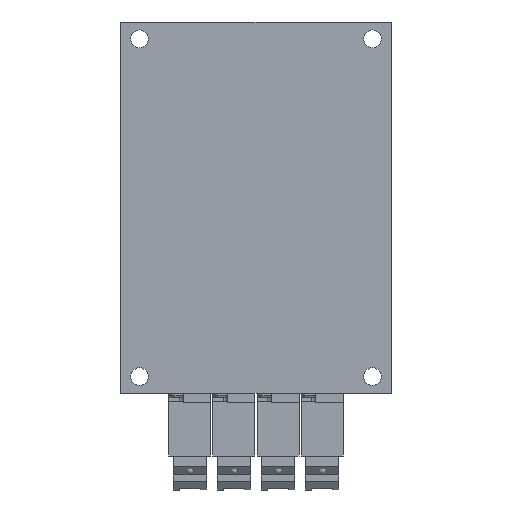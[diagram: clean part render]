
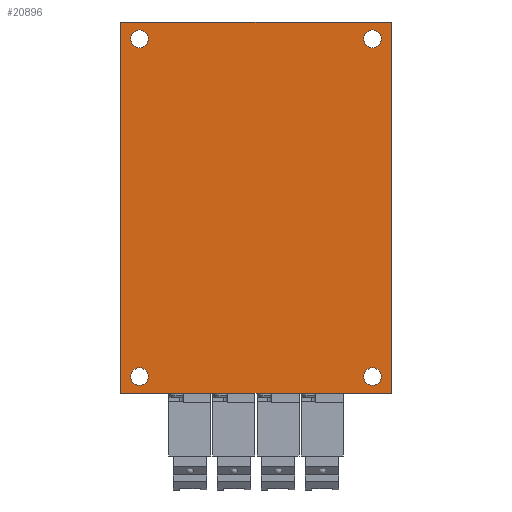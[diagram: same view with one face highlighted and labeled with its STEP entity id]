
A CAD part, front view. The second image highlights one B-rep face of the part: STEP entity #20896.
In plain terms, the highlighted planar face has unit normal (0, -1, 0).
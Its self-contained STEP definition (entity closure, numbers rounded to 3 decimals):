
#229 = DIRECTION ( 'NONE',  ( 0., 0., -1. ) ) ;
#1925 = LINE ( 'NONE', #21956, #12568 ) ;
#2523 = EDGE_CURVE ( 'NONE', #6799, #6799, #6959, .T. ) ;
#2814 = VERTEX_POINT ( 'NONE', #23988 ) ;
#3107 = CIRCLE ( 'NONE', #3927, 2.1 ) ;
#3552 = CARTESIAN_POINT ( 'NONE',  ( -32.25, 0., 44.25 ) ) ;
#3862 = EDGE_CURVE ( 'NONE', #4803, #4803, #25206, .T. ) ;
#3927 = AXIS2_PLACEMENT_3D ( 'NONE', #5730, #20592, #7880 ) ;
#4213 = VECTOR ( 'NONE', #5689, 1000. ) ;
#4259 = VERTEX_POINT ( 'NONE', #27017 ) ;
#4585 = ORIENTED_EDGE ( 'NONE', *, *, #18537, .F. ) ;
#4657 = CARTESIAN_POINT ( 'NONE',  ( 0., 0., 0. ) ) ;
#4761 = EDGE_LOOP ( 'NONE', ( #9656 ) ) ;
#4803 = VERTEX_POINT ( 'NONE', #25071 ) ;
#5066 = VECTOR ( 'NONE', #229, 1000. ) ;
#5689 = DIRECTION ( 'NONE',  ( -1., 0., 0. ) ) ;
#5730 = CARTESIAN_POINT ( 'NONE',  ( 27.75, 0., 40.25 ) ) ;
#6799 = VERTEX_POINT ( 'NONE', #22836 ) ;
#6899 = CARTESIAN_POINT ( 'NONE',  ( 27.75, 0., 42.35 ) ) ;
#6959 = CIRCLE ( 'NONE', #14338, 2.1 ) ;
#7494 = ORIENTED_EDGE ( 'NONE', *, *, #3862, .T. ) ;
#7880 = DIRECTION ( 'NONE',  ( 0., 0., 1. ) ) ;
#8095 = AXIS2_PLACEMENT_3D ( 'NONE', #23278, #10542, #25422 ) ;
#8664 = EDGE_LOOP ( 'NONE', ( #23421, #16320, #13741, #4585 ) ) ;
#8788 = CARTESIAN_POINT ( 'NONE',  ( -27.75, 0., 40.25 ) ) ;
#8941 = DIRECTION ( 'NONE',  ( 0., 0., -1. ) ) ;
#8994 = AXIS2_PLACEMENT_3D ( 'NONE', #4657, #21654, #8941 ) ;
#9656 = ORIENTED_EDGE ( 'NONE', *, *, #2523, .T. ) ;
#9879 = LINE ( 'NONE', #20554, #4213 ) ;
#9978 = DIRECTION ( 'NONE',  ( 0., 1., 0. ) ) ;
#10542 = DIRECTION ( 'NONE',  ( 0., 1., 0. ) ) ;
#10939 = DIRECTION ( 'NONE',  ( 0., 0., 1. ) ) ;
#10970 = EDGE_CURVE ( 'NONE', #15415, #15415, #3107, .T. ) ;
#12568 = VECTOR ( 'NONE', #24118, 1000. ) ;
#13312 = VERTEX_POINT ( 'NONE', #24585 ) ;
#13741 = ORIENTED_EDGE ( 'NONE', *, *, #25802, .F. ) ;
#14274 = CARTESIAN_POINT ( 'NONE',  ( 32.25, 0., -44.25 ) ) ;
#14338 = AXIS2_PLACEMENT_3D ( 'NONE', #22713, #9978, #24865 ) ;
#14345 = LINE ( 'NONE', #3552, #27016 ) ;
#14901 = AXIS2_PLACEMENT_3D ( 'NONE', #8788, #23671, #10939 ) ;
#15038 = FACE_OUTER_BOUND ( 'NONE', #8664, .T. ) ;
#15415 = VERTEX_POINT ( 'NONE', #6899 ) ;
#15449 = EDGE_LOOP ( 'NONE', ( #17582 ) ) ;
#15692 = FACE_BOUND ( 'NONE', #24960, .T. ) ;
#16043 = CIRCLE ( 'NONE', #8095, 2.1 ) ;
#16181 = CARTESIAN_POINT ( 'NONE',  ( 27.75, 0., -38.15 ) ) ;
#16320 = ORIENTED_EDGE ( 'NONE', *, *, #24099, .F. ) ;
#16373 = LINE ( 'NONE', #21466, #5066 ) ;
#16383 = EDGE_LOOP ( 'NONE', ( #16909 ) ) ;
#16909 = ORIENTED_EDGE ( 'NONE', *, *, #20725, .T. ) ;
#17045 = VERTEX_POINT ( 'NONE', #16181 ) ;
#17582 = ORIENTED_EDGE ( 'NONE', *, *, #10970, .T. ) ;
#18409 = DIRECTION ( 'NONE',  ( 1., 0., 0. ) ) ;
#18537 = EDGE_CURVE ( 'NONE', #19986, #4259, #9879, .T. ) ;
#19504 = PLANE ( 'NONE',  #8994 ) ;
#19986 = VERTEX_POINT ( 'NONE', #14274 ) ;
#20554 = CARTESIAN_POINT ( 'NONE',  ( -32.25, 0., -44.25 ) ) ;
#20592 = DIRECTION ( 'NONE',  ( 0., 1., 0. ) ) ;
#20700 = FACE_BOUND ( 'NONE', #15449, .T. ) ;
#20725 = EDGE_CURVE ( 'NONE', #17045, #17045, #16043, .T. ) ;
#20852 = EDGE_CURVE ( 'NONE', #2814, #19986, #16373, .T. ) ;
#20896 = ADVANCED_FACE ( 'NONE', ( #15692, #26381, #21348, #20700, #15038 ), #19504, .T. ) ;
#21348 = FACE_BOUND ( 'NONE', #16383, .T. ) ;
#21466 = CARTESIAN_POINT ( 'NONE',  ( 32.25, 0., 44.25 ) ) ;
#21654 = DIRECTION ( 'NONE',  ( 0., -1., 0. ) ) ;
#21956 = CARTESIAN_POINT ( 'NONE',  ( -32.25, 0., 44.25 ) ) ;
#22713 = CARTESIAN_POINT ( 'NONE',  ( -27.75, 0., -40.25 ) ) ;
#22836 = CARTESIAN_POINT ( 'NONE',  ( -27.75, 0., -38.15 ) ) ;
#23278 = CARTESIAN_POINT ( 'NONE',  ( 27.75, 0., -40.25 ) ) ;
#23421 = ORIENTED_EDGE ( 'NONE', *, *, #20852, .F. ) ;
#23671 = DIRECTION ( 'NONE',  ( 0., 1., 0. ) ) ;
#23988 = CARTESIAN_POINT ( 'NONE',  ( 32.25, 0., 44.25 ) ) ;
#24099 = EDGE_CURVE ( 'NONE', #13312, #2814, #14345, .T. ) ;
#24118 = DIRECTION ( 'NONE',  ( 0., 0., 1. ) ) ;
#24585 = CARTESIAN_POINT ( 'NONE',  ( -32.25, 0., 44.25 ) ) ;
#24865 = DIRECTION ( 'NONE',  ( 0., 0., 1. ) ) ;
#24960 = EDGE_LOOP ( 'NONE', ( #7494 ) ) ;
#25071 = CARTESIAN_POINT ( 'NONE',  ( -27.75, 0., 42.35 ) ) ;
#25206 = CIRCLE ( 'NONE', #14901, 2.1 ) ;
#25422 = DIRECTION ( 'NONE',  ( 0., 0., 1. ) ) ;
#25802 = EDGE_CURVE ( 'NONE', #4259, #13312, #1925, .T. ) ;
#26381 = FACE_BOUND ( 'NONE', #4761, .T. ) ;
#27016 = VECTOR ( 'NONE', #18409, 1000. ) ;
#27017 = CARTESIAN_POINT ( 'NONE',  ( -32.25, 0., -44.25 ) ) ;
